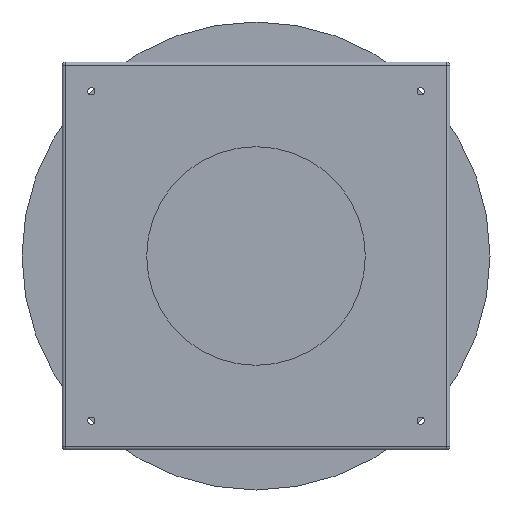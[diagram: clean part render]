
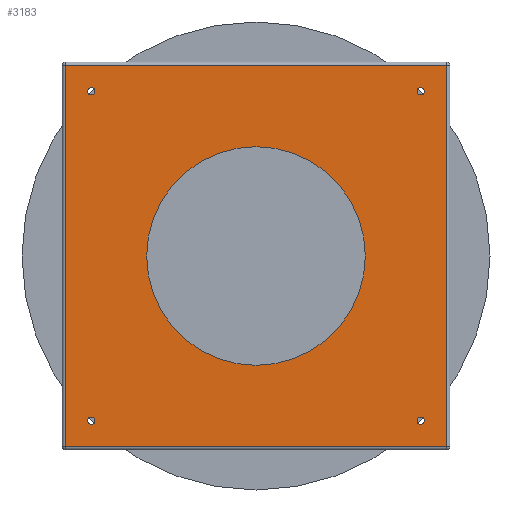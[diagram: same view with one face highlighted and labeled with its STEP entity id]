
A CAD part, front view. The second image highlights one B-rep face of the part: STEP entity #3183.
In plain terms, the highlighted planar face has unit normal (0, -1, 0).
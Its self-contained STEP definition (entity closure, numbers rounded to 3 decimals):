
#3183=ADVANCED_FACE('',(#6865,#6866,#6867,#6868,#6869,#6870),#6871,.F.);
#6865=FACE_BOUND('',#10556,.T.);
#6866=FACE_BOUND('',#10557,.T.);
#6867=FACE_BOUND('',#10558,.T.);
#6868=FACE_BOUND('',#10559,.T.);
#6869=FACE_BOUND('',#10560,.T.);
#6870=FACE_OUTER_BOUND('',#10561,.T.);
#6871=PLANE('',#10562);
#10556=EDGE_LOOP('',(#21042,#21043));
#10557=EDGE_LOOP('',(#21044,#21045));
#10558=EDGE_LOOP('',(#21046,#21047));
#10559=EDGE_LOOP('',(#21048,#21049));
#10560=EDGE_LOOP('',(#21050,#21051));
#10561=EDGE_LOOP('',(#21052,#21053,#21054,#21055));
#10562=AXIS2_PLACEMENT_3D('',#21056,#21057,#21058);
#21042=ORIENTED_EDGE('',*,*,#22232,.T.);
#21043=ORIENTED_EDGE('',*,*,#22199,.T.);
#21044=ORIENTED_EDGE('',*,*,#25258,.T.);
#21045=ORIENTED_EDGE('',*,*,#21157,.T.);
#21046=ORIENTED_EDGE('',*,*,#25261,.T.);
#21047=ORIENTED_EDGE('',*,*,#21152,.T.);
#21048=ORIENTED_EDGE('',*,*,#25264,.T.);
#21049=ORIENTED_EDGE('',*,*,#21147,.T.);
#21050=ORIENTED_EDGE('',*,*,#25267,.T.);
#21051=ORIENTED_EDGE('',*,*,#21142,.T.);
#21052=ORIENTED_EDGE('',*,*,#25275,.F.);
#21053=ORIENTED_EDGE('',*,*,#25281,.T.);
#21054=ORIENTED_EDGE('',*,*,#25287,.T.);
#21055=ORIENTED_EDGE('',*,*,#25315,.F.);
#21056=CARTESIAN_POINT('',(0.0,-180.5,0.0));
#21057=DIRECTION('',(0.0,1.0,0.0));
#21058=DIRECTION('',(0.0,0.0,1.0));
#21142=EDGE_CURVE('',#25355,#25359,#25361,.T.);
#21147=EDGE_CURVE('',#25364,#25368,#25370,.T.);
#21152=EDGE_CURVE('',#25373,#25377,#25379,.T.);
#21157=EDGE_CURVE('',#25382,#25386,#25388,.T.);
#22199=EDGE_CURVE('',#27460,#27464,#27466,.T.);
#22232=EDGE_CURVE('',#27464,#27460,#27512,.T.);
#25258=EDGE_CURVE('',#25386,#25382,#31539,.T.);
#25261=EDGE_CURVE('',#25377,#25373,#31542,.T.);
#25264=EDGE_CURVE('',#25368,#25364,#31545,.T.);
#25267=EDGE_CURVE('',#25359,#25355,#31548,.T.);
#25275=EDGE_CURVE('',#31553,#31559,#31560,.T.);
#25281=EDGE_CURVE('',#31553,#31567,#31569,.T.);
#25287=EDGE_CURVE('',#31567,#31571,#31578,.T.);
#25315=EDGE_CURVE('',#31559,#31571,#31619,.T.);
#25355=VERTEX_POINT('',#31662);
#25359=VERTEX_POINT('',#31667);
#25361=CIRCLE('',#31670,6.0);
#25364=VERTEX_POINT('',#31673);
#25368=VERTEX_POINT('',#31678);
#25370=CIRCLE('',#31681,6.0);
#25373=VERTEX_POINT('',#31684);
#25377=VERTEX_POINT('',#31689);
#25379=CIRCLE('',#31692,6.0);
#25382=VERTEX_POINT('',#31695);
#25386=VERTEX_POINT('',#31700);
#25388=CIRCLE('',#31703,6.0);
#27460=VERTEX_POINT('',#33789);
#27464=VERTEX_POINT('',#33794);
#27466=CIRCLE('',#33797,177.5);
#27512=CIRCLE('',#33847,177.5);
#31539=CIRCLE('',#38874,6.0);
#31542=CIRCLE('',#38877,6.0);
#31545=CIRCLE('',#38880,6.0);
#31548=CIRCLE('',#38883,6.0);
#31553=VERTEX_POINT('',#38888);
#31559=VERTEX_POINT('',#38894);
#31560=LINE('',#38895,#38896);
#31567=VERTEX_POINT('',#38905);
#31569=LINE('',#38907,#38908);
#31571=VERTEX_POINT('',#38910);
#31578=LINE('',#38917,#38918);
#31619=LINE('',#38967,#38968);
#31662=CARTESIAN_POINT('',(-261.5,-180.5,-267.5));
#31667=CARTESIAN_POINT('',(-273.5,-180.5,-267.5));
#31670=AXIS2_PLACEMENT_3D('',#39021,#39022,#39023);
#31673=CARTESIAN_POINT('',(273.5,-180.5,-267.5));
#31678=CARTESIAN_POINT('',(261.5,-180.5,-267.5));
#31681=AXIS2_PLACEMENT_3D('',#39029,#39030,#39031);
#31684=CARTESIAN_POINT('',(273.5,-180.5,267.5));
#31689=CARTESIAN_POINT('',(261.5,-180.5,267.5));
#31692=AXIS2_PLACEMENT_3D('',#39037,#39038,#39039);
#31695=CARTESIAN_POINT('',(-261.5,-180.5,267.5));
#31700=CARTESIAN_POINT('',(-273.5,-180.5,267.5));
#31703=AXIS2_PLACEMENT_3D('',#39045,#39046,#39047);
#33789=CARTESIAN_POINT('',(177.5,-180.5,0.));
#33794=CARTESIAN_POINT('',(-177.5,-180.5,0.));
#33797=AXIS2_PLACEMENT_3D('',#42124,#42125,#42126);
#33847=AXIS2_PLACEMENT_3D('',#42182,#42183,#42184);
#38874=AXIS2_PLACEMENT_3D('',#46236,#46237,#46238);
#38877=AXIS2_PLACEMENT_3D('',#46242,#46243,#46244);
#38880=AXIS2_PLACEMENT_3D('',#46248,#46249,#46250);
#38883=AXIS2_PLACEMENT_3D('',#46254,#46255,#46256);
#38888=CARTESIAN_POINT('',(310.0,-180.5,310.0));
#38894=CARTESIAN_POINT('',(310.0,-180.5,-310.0));
#38895=CARTESIAN_POINT('',(310.0,-180.5,0.0));
#38896=VECTOR('',#46269,1.0);
#38905=CARTESIAN_POINT('',(-310.0,-180.5,310.0));
#38907=CARTESIAN_POINT('',(0.0,-180.5,310.0));
#38908=VECTOR('',#46278,1.0);
#38910=CARTESIAN_POINT('',(-310.0,-180.5,-310.0));
#38917=CARTESIAN_POINT('',(-310.0,-180.5,0.0));
#38918=VECTOR('',#46288,1.0);
#38967=CARTESIAN_POINT('',(0.,-180.5,-310.0));
#38968=VECTOR('',#46333,1.0);
#39021=CARTESIAN_POINT('',(-267.5,-180.5,-267.5));
#39022=DIRECTION('',(-0.0,1.0,0.0));
#39023=DIRECTION('',(1.0,0.0,0.0));
#39029=CARTESIAN_POINT('',(267.5,-180.5,-267.5));
#39030=DIRECTION('',(-0.0,1.0,0.0));
#39031=DIRECTION('',(1.0,0.0,0.0));
#39037=CARTESIAN_POINT('',(267.5,-180.5,267.5));
#39038=DIRECTION('',(-0.0,1.0,0.0));
#39039=DIRECTION('',(1.0,0.0,0.0));
#39045=CARTESIAN_POINT('',(-267.5,-180.5,267.5));
#39046=DIRECTION('',(-0.0,1.0,0.0));
#39047=DIRECTION('',(1.0,0.0,0.0));
#42124=CARTESIAN_POINT('',(0.0,-180.5,0.0));
#42125=DIRECTION('',(-0.0,1.0,0.0));
#42126=DIRECTION('',(1.0,0.0,0.0));
#42182=CARTESIAN_POINT('',(0.0,-180.5,0.0));
#42183=DIRECTION('',(-0.0,1.0,0.0));
#42184=DIRECTION('',(1.0,0.0,0.0));
#46236=CARTESIAN_POINT('',(-267.5,-180.5,267.5));
#46237=DIRECTION('',(-0.0,1.0,0.0));
#46238=DIRECTION('',(1.0,0.0,0.0));
#46242=CARTESIAN_POINT('',(267.5,-180.5,267.5));
#46243=DIRECTION('',(-0.0,1.0,0.0));
#46244=DIRECTION('',(1.0,0.0,0.0));
#46248=CARTESIAN_POINT('',(267.5,-180.5,-267.5));
#46249=DIRECTION('',(-0.0,1.0,0.0));
#46250=DIRECTION('',(1.0,0.0,0.0));
#46254=CARTESIAN_POINT('',(-267.5,-180.5,-267.5));
#46255=DIRECTION('',(-0.0,1.0,0.0));
#46256=DIRECTION('',(1.0,0.0,0.0));
#46269=DIRECTION('',(0.0,0.0,-1.0));
#46278=DIRECTION('',(-1.0,0.,0.));
#46288=DIRECTION('',(0.0,0.0,-1.0));
#46333=DIRECTION('',(-1.0,0.,0.));
